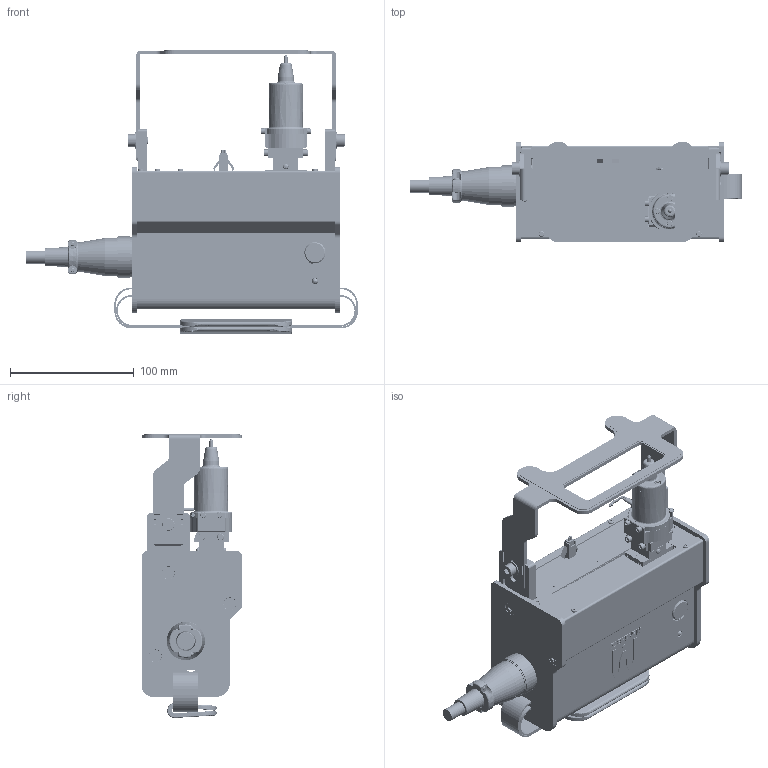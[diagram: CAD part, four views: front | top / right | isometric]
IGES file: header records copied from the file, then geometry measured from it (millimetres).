
Start section: SolidWorks IGES file using analytic representation for surfaces
Global section: file name: C:\東京彫刻 Solidworks Data\_外観図関係\MB8020T\3D\2024_12\MB8020T v1 -A.IGS; native system: SolidWorks 2019; preprocessor: SolidWorks 2019; author: tocho; date: 241219.133728; units: millimetre
Bounding box: 267.75 x 81 x 229.1 mm (x, y, z)
Surface area: 374874.7 mm2 (no closed solid volume)
Topology: 0 solids, 0 shells, 4239 faces, 47467 edges, 47378 vertices
Faces by surface type: bspline 2381, revolution 1858
